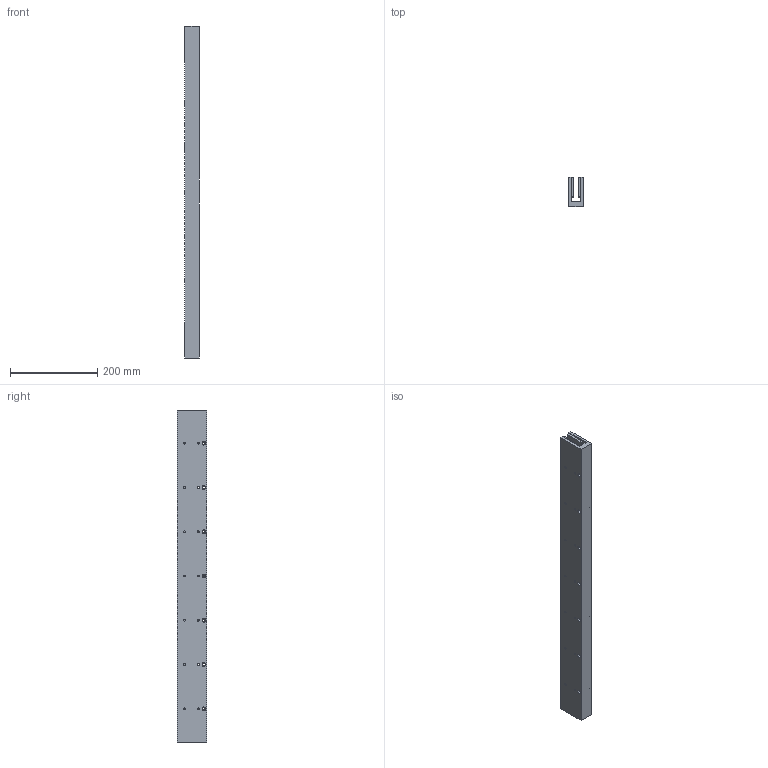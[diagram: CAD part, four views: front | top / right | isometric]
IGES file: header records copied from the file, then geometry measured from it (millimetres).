
Global section: file name: No Iges File Name specified; native system: Autodesk Inventor 2009; preprocessor: AutoDesk Inventor Iges Exporter R2009; author: je17857; date: 20091116.111524; units: inch
Bounding box: 34.29 x 67.31 x 762 mm (x, y, z)
Volume: 1140064.7 mm3; surface area: 287143.3 mm2
Topology: 1 solids, 1 shells, 386 faces, 918 edges, 612 vertices
Faces by surface type: plane 274, bspline 112
